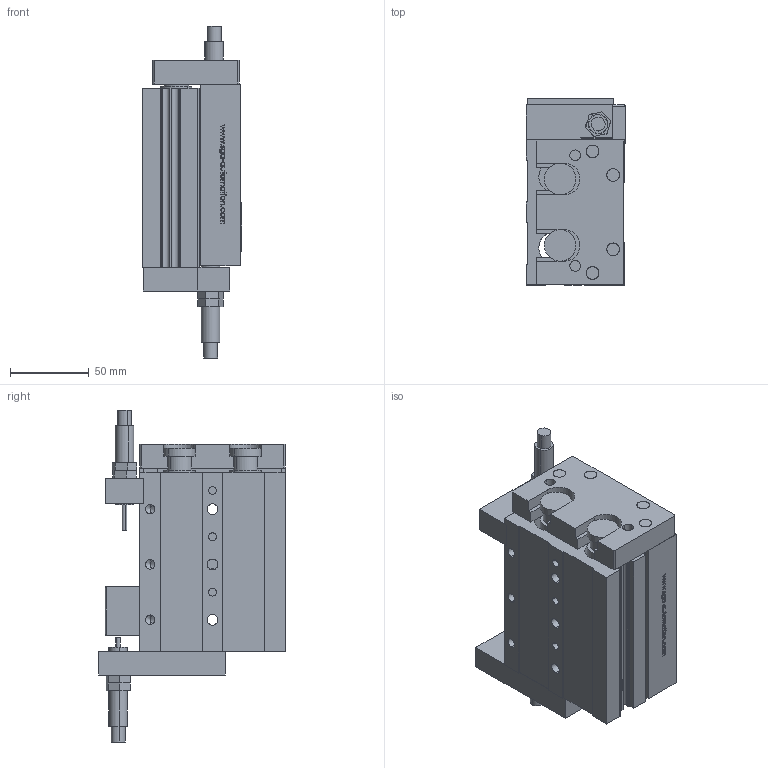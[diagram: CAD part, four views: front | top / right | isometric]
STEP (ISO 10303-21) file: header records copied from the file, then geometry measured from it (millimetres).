
FILE_DESCRIPTION (( 'STEP AP203' ), '1' );
FILE_NAME ('GDX25-50.STEP', '2013-02-28T10:37:30', ( 'Conseil Régional Haute-Normandie' ), ( 'Conseil Régional Haute-Normandie' ), 'SwSTEP 2.0', 'SolidWorks 2010', '' );
FILE_SCHEMA (( 'CONFIG_CONTROL_DESIGN' ));
Length unit declared in the file: millimetre
Products named in the file (17): Pièce16 GDX 25-10_Default; Pièce11 GDX25-10_Default; Pièce10 GDX25-10_Default; Pièce4 GDX25-10_Default; Pièce3 GDX25-10_Default; Pièce3 GDX25-50_Default; Pièce1 GDX25-10_Default; GDX25-50; Pièce1 GDX25-50_Default; Pièce2_Default; Pièce4_Default; Pièce5_Default; Pièce17 GDX 25-10_Default; Pièce8 tige amortisseur GDX25-10_Default; Pièce7 amortisseur GDX25-10_Default; Pièce6 boulon GDX25-10_Default; Pièce5 GDX25-10_Default
Assembly tree (33 placements, depth 2):
  GDX25-50
    Pièce17 GDX 25-10_Default  x8
    Pièce16 GDX 25-10_Default  x4
    Pièce11 GDX25-10_Default  x2
    Pièce7 amortisseur GDX25-10_Default  x2
    Pièce6 boulon GDX25-10_Default  x4
    Pièce8 tige amortisseur GDX25-10_Default  x2
    Pièce4 GDX25-10_Default
    Pièce10 GDX25-10_Default  x2
    Pièce5 GDX25-10_Default
    Pièce3 GDX25-50_Default
    Pièce3 GDX25-10_Default
    Pièce1 GDX25-50_Default
    Pièce5_Default
    Pièce1 GDX25-10_Default
    Pièce2_Default
    Pièce4_Default
Bounding box: 63 x 118 x 210.15 mm (x, y, z)
Volume: 675762.6 mm3; surface area: 180185.5 mm2
Topology: 33 solids, 33 shells, 833 faces, 2074 edges, 1338 vertices
Faces by surface type: plane 404, cylinder 240, bspline 133, cone 52, torus 4
Entity records: 33927 total; most frequent: CARTESIAN_POINT 15083, ORIENTED_EDGE 3560, DIRECTION 3068, EDGE_CURVE 1780, VERTEX_POINT 1174, VECTOR 1154, LINE 1154, AXIS2_PLACEMENT_3D 957
